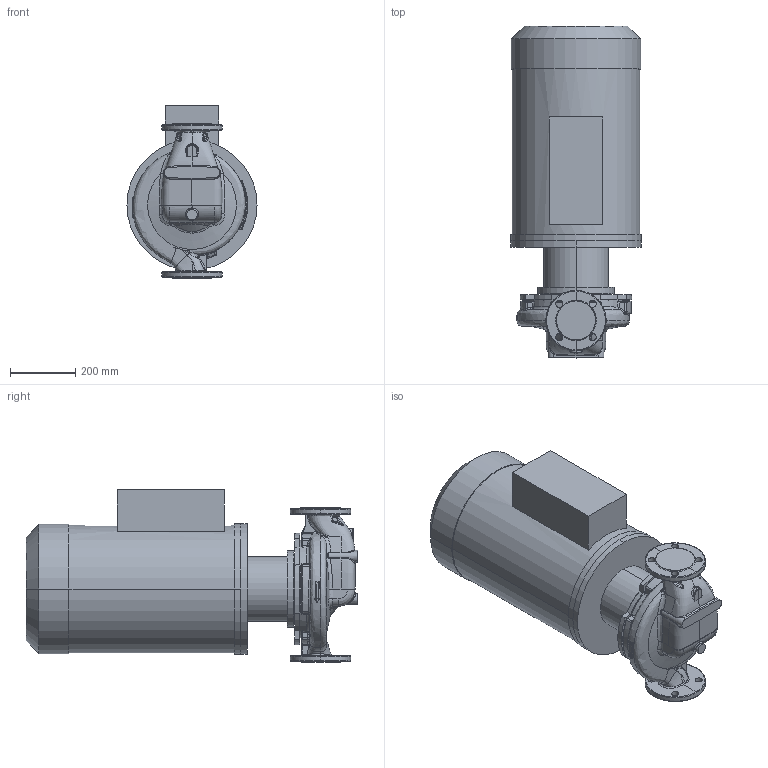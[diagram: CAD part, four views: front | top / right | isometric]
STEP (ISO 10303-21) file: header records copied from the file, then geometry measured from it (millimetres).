
FILE_DESCRIPTION (( 'STEP AP214' ), '1' );
FILE_NAME ('KRL 65-250-2-30.STEP', '2026-03-23T09:58:16', ( '' ), ( '' ), 'SwSTEP 2.0', 'SolidWorks 2016', '' );
FILE_SCHEMA (( 'AUTOMOTIVE_DESIGN' ));
Length unit declared in the file: millimetre
Products named in the file (1): KRL 65-250-2-30
Bounding box: 400 x 1020.3 x 530 mm (x, y, z)
Volume: 107007541.8 mm3; surface area: 2271418.5 mm2
Topology: 4 solids, 4 shells, 621 faces, 1547 edges, 931 vertices
Faces by surface type: bspline 283, cylinder 133, plane 103, cone 43, torus 31, sphere 28
Entity records: 64471 total; most frequent: CARTESIAN_POINT 45462, ORIENTED_EDGE 3058, DIRECTION 1859, EDGE_CURVE 1529, VERTEX_POINT 931, AXIS2_PLACEMENT_3D 797, EDGE_LOOP 652, B_SPLINE_CURVE_WITH_KNOTS 650
